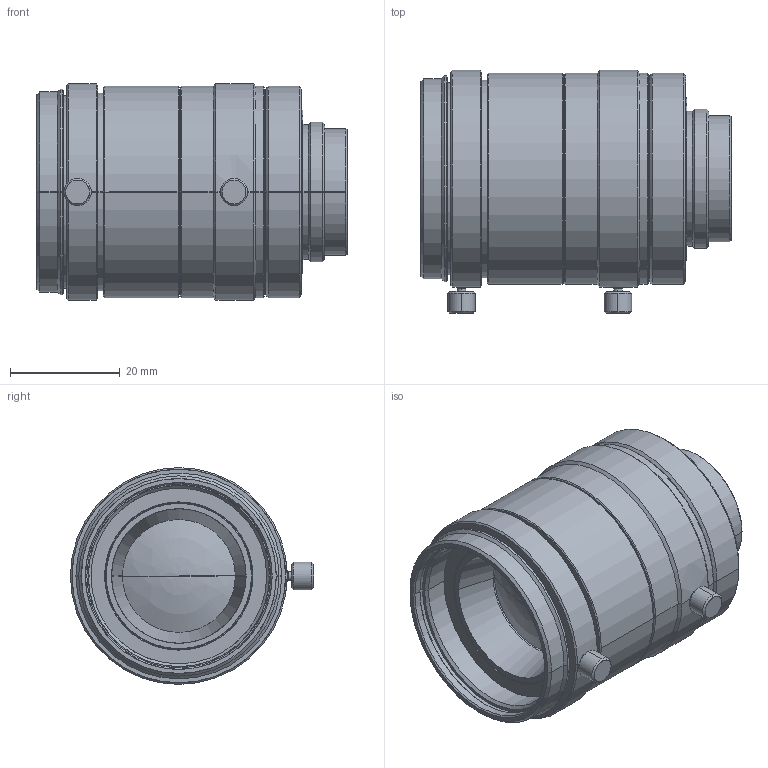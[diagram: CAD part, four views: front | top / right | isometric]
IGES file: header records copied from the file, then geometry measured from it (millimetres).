
Start section: SolidWorks IGES file using analytic representation for surfaces
Global section: file name: \\192.168.200.11\Development\4 ŠJ”­ŒŸ“¢\2021”N“x\D-2100238_VS-HVA3522\10.3DŠOŠÏƒ‚ƒfƒ‹\VS-HVA3522.IGS; native system: SolidWorks 2021; preprocessor: SolidWorks 2021; author: tsuzuki_vst; date: 220209.175325; units: millimetre
Bounding box: 56.5 x 44.3 x 39.5 mm (x, y, z)
Surface area: 11358.2 mm2 (no closed solid volume)
Topology: 0 solids, 0 shells, 141 faces, 2592 edges, 2590 vertices
Faces by surface type: revolution 120, bspline 21
